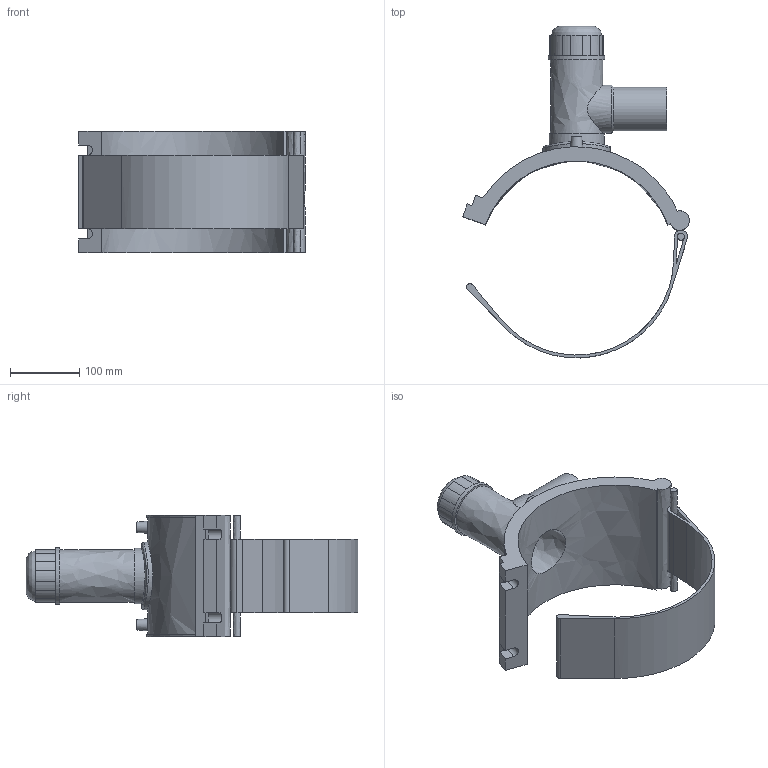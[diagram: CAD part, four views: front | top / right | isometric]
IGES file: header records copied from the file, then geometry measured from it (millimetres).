
Global section: file name: 491304280063; native system: Autodesk Inventor 2019; preprocessor: unknown; author: KIM; date: 20230323.112910; units: millimetre
Bounding box: 327.11 x 479.1 x 176 mm (x, y, z)
Volume: 2074074.4 mm3; surface area: 392155.1 mm2
Topology: 2 solids, 2 shells, 91 faces, 229 edges, 157 vertices
Faces by surface type: bspline 91
